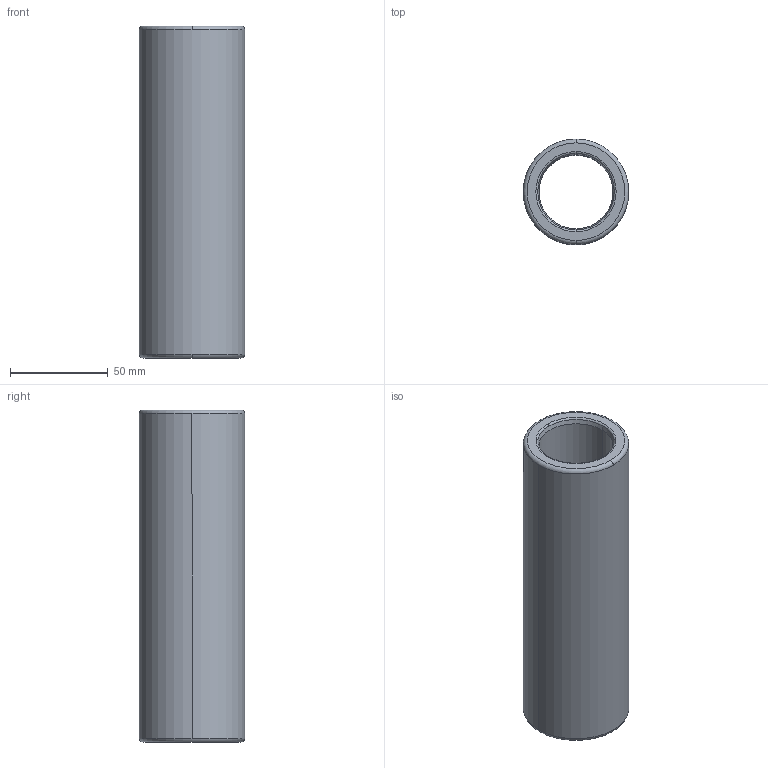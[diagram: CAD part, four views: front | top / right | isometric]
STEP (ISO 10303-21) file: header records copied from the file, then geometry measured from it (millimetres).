
FILE_DESCRIPTION((''),'2;1');
FILE_NAME('B30_030_170.stp','2009-01-12T10:26:57',(''),(''),'Mechanical Desktop 2009','Mechanical Desktop 2009',', , ');
FILE_SCHEMA(('CONFIG_CONTROL_DESIGN'));
Length unit declared in the file: millimetre
Products named in the file (2): Product; blmdl1
Assembly tree (1 placements, depth 2):
  Product
    blmdl1
Bounding box: 53.99 x 53.99 x 170 mm (x, y, z)
Volume: 196073.9 mm3; surface area: 50916.3 mm2
Topology: 1 solids, 1 shells, 18 faces, 48 edges, 32 vertices
Faces by surface type: torus 8, cylinder 4, cone 4, plane 2
Entity records: 705 total; most frequent: DIRECTION 128, CARTESIAN_POINT 100, ORIENTED_EDGE 96, AXIS2_PLACEMENT_3D 60, EDGE_CURVE 48, CIRCLE 40, VERTEX_POINT 32, EDGE_LOOP 20
